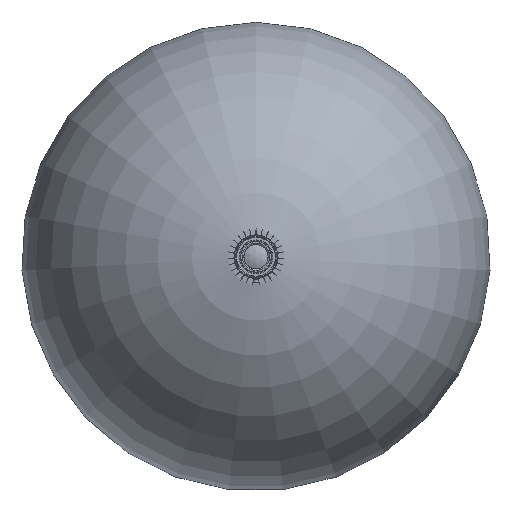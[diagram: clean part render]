
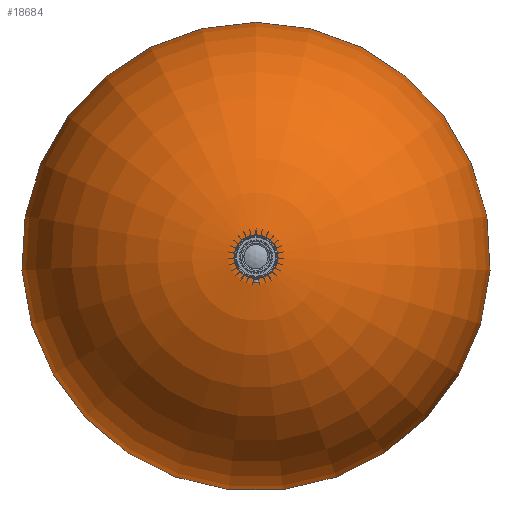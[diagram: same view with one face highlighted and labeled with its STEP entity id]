
A CAD part, front view. The second image highlights one B-rep face of the part: STEP entity #18684.
In plain terms, the highlighted toroidal (fillet/blend) face has major radius 0.007 mm and minor radius 211.6 mm.
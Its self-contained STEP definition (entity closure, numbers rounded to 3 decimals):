
#42=VERTEX_LOOP('',#9013);
#44=DEGENERATE_TOROIDAL_SURFACE('',#19787,0.007,211.6,
 .T.);
#4368=ORIENTED_EDGE('',*,*,#7431,.F.);
#7431=EDGE_CURVE('',#9014,#9014,#9913,.T.);
#9013=VERTEX_POINT('',#27091);
#9014=VERTEX_POINT('',#27111);
#9913=B_SPLINE_CURVE_WITH_KNOTS('',3,(#27092,#27093,#27094,#27095,#27096,
#27097,#27098,#27099,#27100,#27101,#27102,#27103,#27104,#27105,#27106,#27107,
#27108,#27109,#27110),.UNSPECIFIED.,.T.,.F.,(1,1,1,1,1,1,1,1,1,1,1,1,1,
1,1,1,1,1,1,1,1,1,1),(-0.01,-0.006,-0.003,
0.,0.003,0.006,0.01,0.013,
0.016,0.019,0.023,0.026,
0.029,0.032,0.036,0.039,
0.042,0.045,0.049,0.052,
0.055,0.058,0.062),.UNSPECIFIED.);
#10535=EDGE_LOOP('',(#4368));
#11619=FACE_BOUND('',#42,.T.);
#11620=FACE_BOUND('',#10535,.T.);
#18684=ADVANCED_FACE('',(#11619,#11620),#44,.F.);
#19787=AXIS2_PLACEMENT_3D('',#27090,#22192,#22193);
#22192=DIRECTION('',(0.,-1.,0.));
#22193=DIRECTION('',(0.,0.,-1.));
#27090=CARTESIAN_POINT('',(0.,200.921,-0.006));
#27091=CARTESIAN_POINT('',(0.,-10.679,0.));
#27092=CARTESIAN_POINT('',(3.258,-10.517,7.852));
#27093=CARTESIAN_POINT('',(-0.001,-10.517,8.501));
#27094=CARTESIAN_POINT('',(-3.255,-10.517,7.853));
#27095=CARTESIAN_POINT('',(-6.011,-10.517,6.01));
#27096=CARTESIAN_POINT('',(-7.852,-10.517,3.255));
#27097=CARTESIAN_POINT('',(-8.5,-10.517,0.006));
#27098=CARTESIAN_POINT('',(-7.857,-10.517,-3.246));
#27099=CARTESIAN_POINT('',(-6.015,-10.517,-6.007));
#27100=CARTESIAN_POINT('',(-3.258,-10.517,-7.852));
#27101=CARTESIAN_POINT('',(0.001,-10.517,-8.501));
#27102=CARTESIAN_POINT('',(3.255,-10.517,-7.853));
#27103=CARTESIAN_POINT('',(6.011,-10.517,-6.01));
#27104=CARTESIAN_POINT('',(7.852,-10.517,-3.255));
#27105=CARTESIAN_POINT('',(8.5,-10.517,-0.006));
#27106=CARTESIAN_POINT('',(7.857,-10.517,3.246));
#27107=CARTESIAN_POINT('',(6.015,-10.517,6.007));
#27108=CARTESIAN_POINT('',(3.258,-10.517,7.852));
#27109=CARTESIAN_POINT('',(-0.001,-10.517,8.501));
#27110=CARTESIAN_POINT('',(-3.255,-10.517,7.853));
#27111=CARTESIAN_POINT('',(0.,-10.517,8.285));
